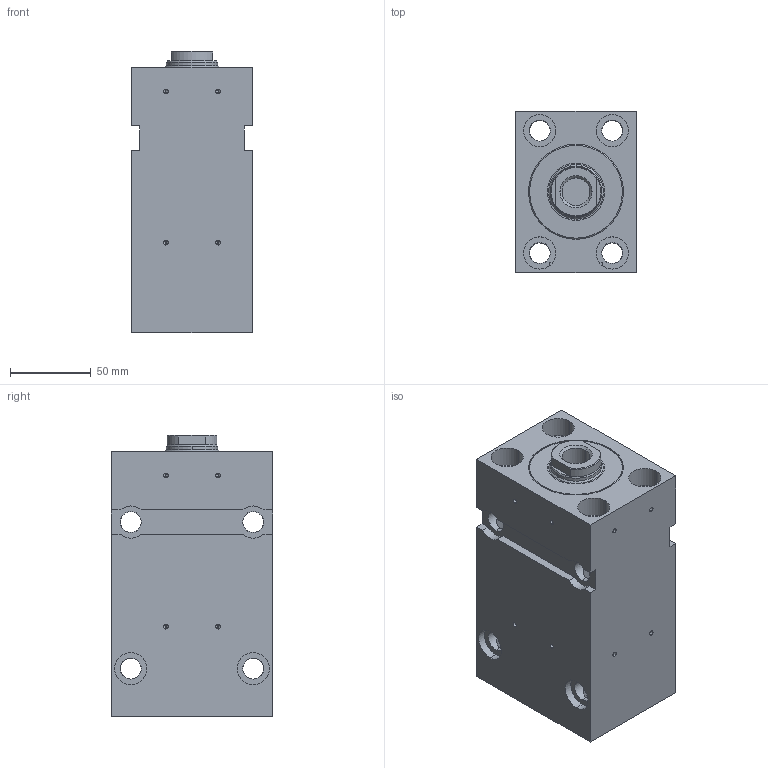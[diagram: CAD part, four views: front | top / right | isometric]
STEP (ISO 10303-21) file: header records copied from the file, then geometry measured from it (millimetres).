
FILE_DESCRIPTION (( 'STEP AP203' ), '1' );
FILE_NAME ('BZ_500.50_32.78.201.100 PP.KBC44__DH_0_.STEP', '2022-05-30T10:43:38', ( '' ), ( '' ), 'SwSTEP 2.0', 'SolidWorks 2020', '' );
FILE_SCHEMA (( 'CONFIG_CONTROL_DESIGN' ));
Length unit declared in the file: millimetre
Products named in the file (6): _Dichtungssatz f. BZ_RZ_FZ.50_32.xx.201.100 Artikelnr._ 013676(0)^BZ_500.50_32.78.201.100 PP.KBC44__DH_0_(2)_BZ_500.50_32.78.201.100 PP.KBC44__DH_0_; _Gehaeuse f. BZ500.50_32.Fehler in IDBF.201.100Fehler in IDNT00(1344frei278000))7^BZ_500.50_32.78.201.100 PP.KBC44__DH_0_(2)_BZ_500.50_32.78.201.100 PP.KBC44__DH_0_; _Kolbenstange komplett f. BZ_RZ_FZ.50_32.xx.201.100, Art.-Nr._ 054516(0_11 1 20 2.5 0 0 10 30 0 0 0)0^BZ_500.50_32.78.201.100 PP.KBC44__DH_0_(2)_BZ_500.50_32.78.201.100 PP.KBC44__DH_0_; BZ_500.50_32.78.201.100 PP.KBC44__DH_0_(2)^BZ_500.50_32.78.201.100 PP.KBC44__DH_0_; BZ_500.50_32.78.201.100 PP.KBC44__DH_0_; _Verschraubung komplett mit Dichtung f. BZ_RZ_FZ.50_32.201, Art.-Nr._ 042986(201)^BZ_500.50_32.78.201.100 PP.KBC44__DH_0_(2)_BZ_500.50_32.78.201.100 PP.KBC44__DH_0_
Assembly tree (5 placements, depth 3):
  BZ_500.50_32.78.201.100 PP.KBC44__DH_0_
    BZ_500.50_32.78.201.100 PP.KBC44__DH_0_(2)^BZ_500.50_32.78.201.100 PP.KBC44__DH_0_
      _Gehaeuse f. BZ500.50_32.Fehler in IDBF.201.100Fehler in IDNT00(1344frei278000))7^BZ_500.50_32.78.201.100 PP.KBC44__DH_0_(2)_BZ_500.50_32.78.201.100 PP.KBC44__DH_0_
      _Verschraubung komplett mit Dichtung f. BZ_RZ_FZ.50_32.201, Art.-Nr._ 042986(201)^BZ_500.50_32.78.201.100 PP.KBC44__DH_0_(2)_BZ_500.50_32.78.201.100 PP.KBC44__DH_0_
      _Dichtungssatz f. BZ_RZ_FZ.50_32.xx.201.100 Artikelnr._ 013676(0)^BZ_500.50_32.78.201.100 PP.KBC44__DH_0_(2)_BZ_500.50_32.78.201.100 PP.KBC44__DH_0_
      _Kolbenstange komplett f. BZ_RZ_FZ.50_32.xx.201.100, Art.-Nr._ 054516(0_11 1 20 2.5 0 0 10 30 0 0 0)0^BZ_500.50_32.78.201.100 PP.KBC44__DH_0_(2)_BZ_500.50_32.78.201.100 PP.KBC44__DH_0_
Bounding box: 75 x 100 x 175 mm (x, y, z)
Volume: 963971.3 mm3; surface area: 173550.1 mm2
Topology: 4 solids, 4 shells, 240 faces, 590 edges, 351 vertices
Faces by surface type: cylinder 146, plane 56, cone 38
Entity records: 7771 total; most frequent: CARTESIAN_POINT 1548, DIRECTION 1235, ORIENTED_EDGE 1132, EDGE_CURVE 566, AXIS2_PLACEMENT_3D 492, VERTEX_POINT 351, EDGE_LOOP 297, LINE 251
